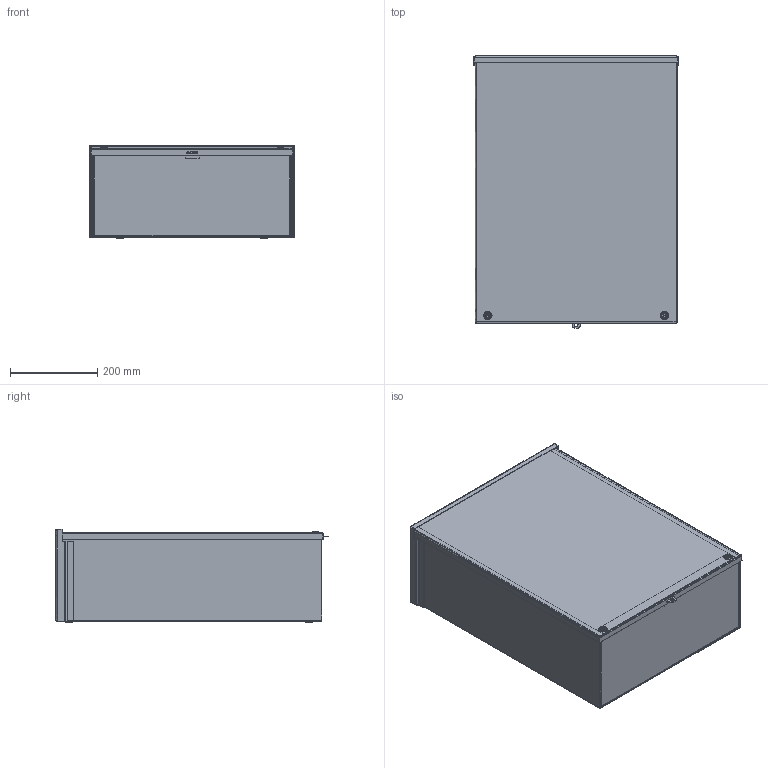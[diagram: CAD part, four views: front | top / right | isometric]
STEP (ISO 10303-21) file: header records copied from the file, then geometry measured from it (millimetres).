
FILE_DESCRIPTION((''),'2;1');
FILE_NAME('D:\scratch\ideas\a24r188nk.stp','2007-01-22T10:42:36',( 'User'),('SDRC'),'I-DEAS Master Series 9','UNIX','Yes');
FILE_SCHEMA(('AUTOMOTIVE_DESIGN { 1 0 10303 214 0 1 1 1 }'));
Length unit declared in the file: inch
Products named in the file (7): 13517; 3rsc_wmt_body_24x18x8; 3rsc_top_18x8; 3rsc_bottom_18x8_nk; 3rsc_body_24x18x8; 3rsc_cover_24x18; 78124001
Assembly tree (6 placements, depth 3):
  13517
    3rsc_wmt_body_24x18x8
      3rsc_top_18x8
      3rsc_bottom_18x8_nk
      3rsc_body_24x18x8
    3rsc_cover_24x18
    78124001
Bounding box: 469.9 x 625.55 x 214.63 mm (x, y, z)
Volume: 1514031.8 mm3; surface area: 2179656.6 mm2
Topology: 5 solids, 5 shells, 255 faces, 643 edges, 408 vertices
Faces by surface type: bspline 255
Entity records: 8154 total; most frequent: CARTESIAN_POINT 4019, ORIENTED_EDGE 1286, EDGE_CURVE 643, VERTEX_POINT 408, QUASI_UNIFORM_CURVE 312, EDGE_LOOP 293, FACE_OUTER_BOUND 255, ADVANCED_FACE 255
